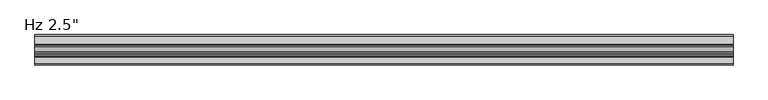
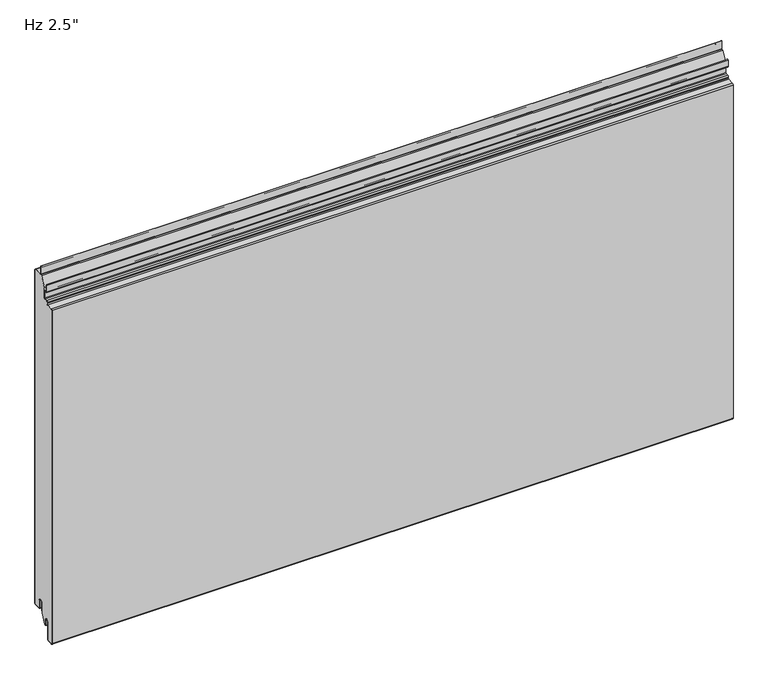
"""IFC4 building model written with IfcOpenShell, lengths in millimetres: plate geometry."""

from ifc_helpers import new_model, si_unit, point, frame, frame_2d, origin, place, context, project, spatial, polyline, circle_curve, ellipse_curve, trimmed, segment, composite_curve, outline, extrude, source, transform, mapped, element, save
from ifc_brep_helpers import plane_surface, cylinder_surface, revolved_surface, extruded_surface, advanced_brep


def plate_dc62b988(model_context):
    return source(origin(), model_context, "Body", "SolidModel", [
        extrude(outline(composite_curve([segment(trimmed(circle_curve(frame_2d((-21.43125, 19.05)), 4.96875), [point((-16.4625, 19.05))], [point((-26.4, 19.05))], True, "CARTESIAN"), True, "CONTINUOUS"), segment(polyline([(-26.4, 19.05), (-26.4, -3.1323422), (-36.5326309, -23.01875), (-38.1, -23.01875), (-38.1, -13.5080174), (-38.89375, -13.5080174), (-38.6875, -11.9205174)]), True, "CONTINUOUS"), segment(trimmed(circle_curve(frame_2d((-43.65625, -11.9205174)), 4.96875), [point((-38.6875, -11.9205174))], [point((-48.625, -11.9205174))], True, "CARTESIAN"), True, "CONTINUOUS"), segment(polyline([(-48.625, -11.9205174), (-48.625, -50.1038221)]), True, "CONTINUOUS"), segment(trimmed(circle_curve(frame_2d((-50.00625, -50.1038221)), 1.38125), [point((-48.625, -50.1038221))], [point((-49.933961, -51.4831791))], False, "CARTESIAN"), True, "CONTINUOUS"), segment(polyline([(-49.933961, -51.4831791), (-61.046461, -52.0655606)]), True, "CONTINUOUS"), segment(trimmed(circle_curve(frame_2d((-61.11875, -50.6862035)), 1.38125), [point((-61.046461, -52.0655606))], [point((-62.5, -50.6862035))], False, "CARTESIAN"), True, "CONTINUOUS"), segment(polyline([(-62.5, -50.6862035), (-62.5, 704.9572607)]), True, "CONTINUOUS"), segment(trimmed(circle_curve(frame_2d((-61.11875, 704.9572607)), 1.38125), [point((-62.5, 704.9572607))], [point((-61.191039, 706.3366177))], False, "CARTESIAN"), True, "CONTINUOUS"), segment(polyline([(-61.191039, 706.3366177), (-47.4895807, 707.0546807)]), True, "CONTINUOUS"), segment(trimmed(circle_curve(frame_2d((-47.625, 709.6386347)), 2.5875), [point((-47.4895807, 707.0546807))], [point((-45.0375, 709.6386347))], True, "CARTESIAN"), True, "CONTINUOUS"), segment(polyline([(-45.0375, 709.6386347), (-45.0375, 712.6824411)]), True, "CONTINUOUS"), segment(trimmed(circle_curve(frame_2d((-43.65625, 712.6824411)), 1.38125), [point((-45.0375, 712.6824411))], [point((-43.728539, 714.0617981))], False, "CARTESIAN"), True, "CONTINUOUS"), segment(polyline([(-43.728539, 714.0617981), (-37.9645807, 714.3638744)]), True, "CONTINUOUS"), segment(trimmed(circle_curve(frame_2d((-38.1, 716.9478283)), 2.5875), [point((-37.9645807, 714.3638744))], [point((-35.5125, 716.9478283))], True, "CARTESIAN"), True, "CONTINUOUS"), segment(polyline([(-35.5125, 716.9478283), (-35.5125, 739.3892934), (-24.9057308, 760.20625), (-2.38125, 760.20625)]), True, "CONTINUOUS"), segment(trimmed(circle_curve(frame_2d((-2.38125, 758.825)), 1.38125), [point((-2.38125, 760.20625))], [point((-1.0, 758.825))], False, "CARTESIAN"), True, "CONTINUOUS"), segment(polyline([(-1.0, 758.825), (-1.0, 3.175)]), True, "CONTINUOUS"), segment(trimmed(circle_curve(frame_2d((-2.38125, 3.175)), 1.38125), [point((-1.0, 3.175))], [point((-2.38125, 1.79375))], False, "CARTESIAN"), True, "CONTINUOUS"), segment(polyline([(-2.38125, 1.79375), (-15.08125, 1.79375)]), True, "CONTINUOUS"), segment(trimmed(circle_curve(frame_2d((-15.08125, 3.175)), 1.38125), [point((-15.08125, 1.79375))], [point((-16.4625, 3.175))], False, "CARTESIAN"), True, "CONTINUOUS"), segment(polyline([(-16.4625, 3.175), (-16.4625, 19.05)]), True, "CONTINUOUS")], self_intersect=False)), frame((-730.0, 0.0, 0.0), z_axis=(1.0, 0.0, 0.0), x_axis=(0.0, 1.0, 0.0)), (0.0, 0.0, 1.0), 1460.0),
        extrude(outline(composite_curve([segment(polyline([(-25.4, 0.79375), (-26.4, 0.79375), (-26.4, 19.05)]), True, "CONTINUOUS"), segment(trimmed(circle_curve(frame_2d((-21.43125, 19.05)), 4.96875), [point((-26.4, 19.05))], [point((-16.4625, 19.05))], False, "CARTESIAN"), True, "CONTINUOUS"), segment(polyline([(-16.4625, 19.05), (-16.4625, 3.175)]), True, "CONTINUOUS"), segment(trimmed(circle_curve(frame_2d((-15.08125, 3.175)), 1.38125), [point((-16.4625, 3.175))], [point((-15.08125, 1.79375))], True, "CARTESIAN"), True, "CONTINUOUS"), segment(polyline([(-15.08125, 1.79375), (-2.38125, 1.79375)]), True, "CONTINUOUS"), segment(trimmed(circle_curve(frame_2d((-2.38125, 3.175)), 1.38125), [point((-2.38125, 1.79375))], [point((-1.0, 3.175))], True, "CARTESIAN"), True, "CONTINUOUS"), segment(polyline([(-1.0, 3.175), (-1.0, 758.825)]), True, "CONTINUOUS"), segment(trimmed(circle_curve(frame_2d((-2.38125, 758.825)), 1.38125), [point((-1.0, 758.825))], [point((-2.38125, 760.20625))], True, "CARTESIAN"), True, "CONTINUOUS"), segment(polyline([(-2.38125, 760.20625), (-19.446875, 760.20625)]), True, "CONTINUOUS"), segment(trimmed(circle_curve(frame_2d((-19.446875, 762.79375)), 2.5875), [point((-19.446875, 760.20625))], [point((-22.034375, 762.79375))], False, "CARTESIAN"), True, "CONTINUOUS"), segment(polyline([(-22.034375, 762.79375), (-22.034375, 780.25625), (-21.034375, 780.25625), (-21.034375, 762.79375)]), True, "CONTINUOUS"), segment(trimmed(circle_curve(frame_2d((-19.446875, 762.79375)), 1.5875), [point((-21.034375, 762.79375))], [point((-19.446875, 761.20625))], True, "CARTESIAN"), True, "CONTINUOUS"), segment(polyline([(-19.446875, 761.20625), (-2.38125, 761.20625)]), True, "CONTINUOUS"), segment(trimmed(circle_curve(frame_2d((-2.38125, 758.825)), 2.38125), [point((-2.38125, 761.20625))], [point((0.0, 758.825))], False, "CARTESIAN"), True, "CONTINUOUS"), segment(polyline([(0.0, 758.825), (0.0, 3.175)]), True, "CONTINUOUS"), segment(trimmed(circle_curve(frame_2d((-2.38125, 3.175)), 2.38125), [point((0.0, 3.175))], [point((-2.38125, 0.79375))], False, "CARTESIAN"), True, "CONTINUOUS"), segment(polyline([(-2.38125, 0.79375), (-15.08125, 0.79375)]), True, "CONTINUOUS"), segment(trimmed(circle_curve(frame_2d((-15.08125, 3.175)), 2.38125), [point((-15.08125, 0.79375))], [point((-17.4625, 3.175))], False, "CARTESIAN"), True, "CONTINUOUS"), segment(polyline([(-17.4625, 3.175), (-17.4625, 19.05)]), True, "CONTINUOUS"), segment(trimmed(circle_curve(frame_2d((-21.43125, 19.05)), 3.96875), [point((-17.4625, 19.05))], [point((-25.4, 19.05))], True, "CARTESIAN"), True, "CONTINUOUS"), segment(polyline([(-25.4, 19.05), (-25.4, 0.79375)]), True, "CONTINUOUS")], self_intersect=False)), frame((-730.0, 0.0, 0.0), z_axis=(1.0, 0.0, 0.0), x_axis=(0.0, 1.0, 0.0)), (0.0, 0.0, 1.0), 1460.0),
        advanced_brep(
        [(-730.0, -38.1, -23.2314549), (-730.0, -39.6875, -23.2314549), (-730.0, -39.6875, -11.9205174), (-730.0, -47.625, -11.9205174), (-730.0, -47.625, -50.1038221), (-730.0, -49.881625, -52.4818086), (-730.0, -60.994125, -53.0641901), (-730.0, -63.5, -50.6862035), (-730.0, -63.5, 704.9572607), (-730.0, -61.243375, 707.3352473), (-730.0, -47.5419167, 708.0533103), (-730.0, -46.0375, 709.6386347), (-730.0, -46.0375, 712.6824411), (-730.0, -43.780875, 715.0604276), (-730.0, -38.0169167, 715.3625039), (-730.0, -36.5125, 716.9478283), (-730.0, -36.5125, 731.8232326), (-730.0, -38.1, 733.4107326), (-730.0, -42.2671875, 733.4107326), (-730.0, -44.6484375, 735.7919826), (-730.0, -44.6484375, 750.2836032), (-730.0, -42.8546875, 750.2836032), (-730.0, -42.8546875, 740.5544826), (-730.0, -43.6484375, 740.5544826), (-730.0, -43.6484375, 735.7919826), (-730.0, -42.2671875, 734.4107326), (-730.0, -38.1, 734.4107326), (-730.0, -35.5125, 731.8232326), (-730.0, -35.5125, 716.9478283), (-730.0, -37.9645807, 714.3638744), (-730.0, -43.728539, 714.0617981), (-730.0, -45.0375, 712.6824411), (-730.0, -45.0375, 709.6386347), (-730.0, -47.4895807, 707.0546807), (-730.0, -61.191039, 706.3366177), (-730.0, -62.5, 704.9572607), (-730.0, -62.5, -50.6862035), (-730.0, -61.046461, -52.0655606), (-730.0, -49.933961, -51.4831791), (-730.0, -48.625, -50.1038221), (-730.0, -48.625, -11.9205174), (-730.0, -38.6875, -11.9205174), (-730.0, -38.89375, -13.5080174), (-730.0, -38.1, -13.5080174), (730.0, -38.1, -23.2314549), (730.0, -38.1, -13.5080174), (730.0, -38.89375, -13.5080174), (730.0, -38.6875, -11.9205174), (730.0, -48.625, -11.9205174), (730.0, -48.625, -50.1038221), (730.0, -49.933961, -51.4831791), (730.0, -61.046461, -52.0655606), (730.0, -62.5, -50.6862035), (730.0, -62.5, 704.9572607), (730.0, -61.191039, 706.3366177), (730.0, -47.4895807, 707.0546807), (730.0, -45.0375, 709.6386347), (730.0, -45.0375, 712.6824411), (730.0, -43.728539, 714.0617981), (730.0, -37.9645807, 714.3638744), (730.0, -35.5125, 716.9478283), (730.0, -35.5125, 731.8232326), (730.0, -38.1, 734.4107326), (730.0, -42.2671875, 734.4107326), (730.0, -43.6484375, 735.7919826), (730.0, -43.6484375, 740.5544826), (730.0, -42.8546875, 740.5544826), (730.0, -42.8546875, 750.2836032), (730.0, -44.6484375, 750.2836032), (730.0, -44.6484375, 735.7919826), (730.0, -42.2671875, 733.4107326), (730.0, -38.1, 733.4107326), (730.0, -36.5125, 731.8232326), (730.0, -36.5125, 716.9478283), (730.0, -38.0169167, 715.3625039), (730.0, -43.780875, 715.0604276), (730.0, -46.0375, 712.6824411), (730.0, -46.0375, 709.6386347), (730.0, -47.5419167, 708.0533103), (730.0, -61.243375, 707.3352473), (730.0, -63.5, 704.9572607), (730.0, -63.5, -50.6862035), (730.0, -60.994125, -53.0641901), (730.0, -49.881625, -52.4818086), (730.0, -47.625, -50.1038221), (730.0, -47.625, -11.9205174), (730.0, -39.6875, -11.9205174), (730.0, -39.6875, -23.2314549)],
        [
            (0, 1, circle_curve(frame((-730.0, -38.89375, -23.2314549), z_axis=(-1.0, 0.0, 0.0), x_axis=(0.0, 0.0, 1.0)), 0.79375)),
            (1, 2),
            (2, 3, circle_curve(frame((-730.0, -43.65625, -11.9205174), z_axis=(1.0, 0.0, 0.0), x_axis=(0.0, 0.0, 1.0)), 3.96875)),
            (3, 4),
            (4, 5, circle_curve(frame((-730.0, -50.00625, -50.1038221), z_axis=(-1.0, 0.0, 0.0), x_axis=(0.0, 0.0, 1.0)), 2.38125)),
            (5, 6),
            (6, 7, circle_curve(frame((-730.0, -61.11875, -50.6862035), z_axis=(-1.0, 0.0, 0.0), x_axis=(0.0, 0.0, 1.0)), 2.38125)),
            (7, 8),
            (8, 9, circle_curve(frame((-730.0, -61.11875, 704.9572607), z_axis=(-1.0, 0.0, 0.0), x_axis=(0.0, 0.0, 1.0)), 2.38125)),
            (9, 10),
            (10, 11, circle_curve(frame((-730.0, -47.625, 709.6386347), z_axis=(1.0, 0.0, 0.0), x_axis=(0.0, 0.0, 1.0)), 1.5875)),
            (11, 12),
            (12, 13, circle_curve(frame((-730.0, -43.65625, 712.6824411), z_axis=(-1.0, 0.0, 0.0), x_axis=(0.0, 0.0, 1.0)), 2.38125)),
            (13, 14),
            (14, 15, circle_curve(frame((-730.0, -38.1, 716.9478283), z_axis=(1.0, 0.0, 0.0), x_axis=(0.0, 0.0, 1.0)), 1.5875)),
            (15, 16),
            (16, 17, circle_curve(frame((-730.0, -38.1, 731.8232326), z_axis=(1.0, 0.0, 0.0), x_axis=(0.0, 0.0, 1.0)), 1.5875)),
            (17, 18),
            (18, 19, circle_curve(frame((-730.0, -42.2671875, 735.7919826), z_axis=(-1.0, 0.0, 0.0), x_axis=(0.0, 0.0, 1.0)), 2.38125)),
            (19, 20),
            (20, 21, ellipse_curve(frame((-730.0, -43.7515625, 750.2836032), z_axis=(-1.0, 0.0, 0.0), x_axis=(0.0, 1.0, 0.0)), 0.896875, 0.7852275)),
            (21, 22),
            (22, 23),
            (23, 24),
            (24, 25, circle_curve(frame((-730.0, -42.2671875, 735.7919826), z_axis=(1.0, 0.0, 0.0), x_axis=(0.0, 0.0, 1.0)), 1.38125)),
            (25, 26),
            (26, 27, circle_curve(frame((-730.0, -38.1, 731.8232326), z_axis=(-1.0, 0.0, 0.0), x_axis=(0.0, 0.0, 1.0)), 2.5875)),
            (27, 28),
            (28, 29, circle_curve(frame((-730.0, -38.1, 716.9478283), z_axis=(-1.0, 0.0, 0.0), x_axis=(0.0, 0.0, 1.0)), 2.5875)),
            (29, 30),
            (30, 31, circle_curve(frame((-730.0, -43.65625, 712.6824411), z_axis=(1.0, 0.0, 0.0), x_axis=(0.0, 0.0, 1.0)), 1.38125)),
            (31, 32),
            (32, 33, circle_curve(frame((-730.0, -47.625, 709.6386347), z_axis=(-1.0, 0.0, 0.0), x_axis=(0.0, 0.0, 1.0)), 2.5875)),
            (33, 34),
            (34, 35, circle_curve(frame((-730.0, -61.11875, 704.9572607), z_axis=(1.0, 0.0, 0.0), x_axis=(0.0, 0.0, 1.0)), 1.38125)),
            (35, 36),
            (36, 37, circle_curve(frame((-730.0, -61.11875, -50.6862035), z_axis=(1.0, 0.0, 0.0), x_axis=(0.0, 0.0, 1.0)), 1.38125)),
            (37, 38),
            (38, 39, circle_curve(frame((-730.0, -50.00625, -50.1038221), z_axis=(1.0, 0.0, 0.0), x_axis=(0.0, 0.0, 1.0)), 1.38125)),
            (39, 40),
            (40, 41, circle_curve(frame((-730.0, -43.65625, -11.9205174), z_axis=(-1.0, 0.0, 0.0), x_axis=(0.0, 0.0, 1.0)), 4.96875)),
            (41, 42),
            (42, 43),
            (43, 0),
            (44, 45),
            (45, 46),
            (46, 47),
            (47, 48, circle_curve(frame((730.0, -43.65625, -11.9205174), z_axis=(1.0, 0.0, 0.0), x_axis=(0.0, 0.0, 1.0)), 4.96875)),
            (48, 49),
            (49, 50, circle_curve(frame((730.0, -50.00625, -50.1038221), z_axis=(-1.0, 0.0, 0.0), x_axis=(0.0, 0.0, 1.0)), 1.38125)),
            (50, 51),
            (51, 52, circle_curve(frame((730.0, -61.11875, -50.6862035), z_axis=(-1.0, 0.0, 0.0), x_axis=(0.0, 0.0, 1.0)), 1.38125)),
            (52, 53),
            (53, 54, circle_curve(frame((730.0, -61.11875, 704.9572607), z_axis=(-1.0, 0.0, 0.0), x_axis=(0.0, 0.0, 1.0)), 1.38125)),
            (54, 55),
            (55, 56, circle_curve(frame((730.0, -47.625, 709.6386347), z_axis=(1.0, 0.0, 0.0), x_axis=(0.0, 0.0, 1.0)), 2.5875)),
            (56, 57),
            (57, 58, circle_curve(frame((730.0, -43.65625, 712.6824411), z_axis=(-1.0, 0.0, 0.0), x_axis=(0.0, 0.0, 1.0)), 1.38125)),
            (58, 59),
            (59, 60, circle_curve(frame((730.0, -38.1, 716.9478283), z_axis=(1.0, 0.0, 0.0), x_axis=(0.0, 0.0, 1.0)), 2.5875)),
            (60, 61),
            (61, 62, circle_curve(frame((730.0, -38.1, 731.8232326), z_axis=(1.0, 0.0, 0.0), x_axis=(0.0, 0.0, 1.0)), 2.5875)),
            (62, 63),
            (63, 64, circle_curve(frame((730.0, -42.2671875, 735.7919826), z_axis=(-1.0, 0.0, 0.0), x_axis=(0.0, 0.0, 1.0)), 1.38125)),
            (64, 65),
            (65, 66),
            (66, 67),
            (67, 68, ellipse_curve(frame((730.0, -43.7515625, 750.2836032), z_axis=(1.0, 0.0, 0.0), x_axis=(0.0, 1.0, 0.0)), 0.896875, 0.7852275)),
            (68, 69),
            (69, 70, circle_curve(frame((730.0, -42.2671875, 735.7919826), z_axis=(1.0, 0.0, 0.0), x_axis=(0.0, 0.0, 1.0)), 2.38125)),
            (70, 71),
            (71, 72, circle_curve(frame((730.0, -38.1, 731.8232326), z_axis=(-1.0, 0.0, 0.0), x_axis=(0.0, 0.0, 1.0)), 1.5875)),
            (72, 73),
            (73, 74, circle_curve(frame((730.0, -38.1, 716.9478283), z_axis=(-1.0, 0.0, 0.0), x_axis=(0.0, 0.0, 1.0)), 1.5875)),
            (74, 75),
            (75, 76, circle_curve(frame((730.0, -43.65625, 712.6824411), z_axis=(1.0, 0.0, 0.0), x_axis=(0.0, 0.0, 1.0)), 2.38125)),
            (76, 77),
            (77, 78, circle_curve(frame((730.0, -47.625, 709.6386347), z_axis=(-1.0, 0.0, 0.0), x_axis=(0.0, 0.0, 1.0)), 1.5875)),
            (78, 79),
            (79, 80, circle_curve(frame((730.0, -61.11875, 704.9572607), z_axis=(1.0, 0.0, 0.0), x_axis=(0.0, 0.0, 1.0)), 2.38125)),
            (80, 81),
            (81, 82, circle_curve(frame((730.0, -61.11875, -50.6862035), z_axis=(1.0, 0.0, 0.0), x_axis=(0.0, 0.0, 1.0)), 2.38125)),
            (82, 83),
            (83, 84, circle_curve(frame((730.0, -50.00625, -50.1038221), z_axis=(1.0, 0.0, 0.0), x_axis=(0.0, 0.0, 1.0)), 2.38125)),
            (84, 85),
            (85, 86, circle_curve(frame((730.0, -43.65625, -11.9205174), z_axis=(-1.0, 0.0, 0.0), x_axis=(0.0, 0.0, 1.0)), 3.96875)),
            (86, 87),
            (87, 44, circle_curve(frame((730.0, -38.89375, -23.2314549), z_axis=(1.0, 0.0, 0.0), x_axis=(0.0, 0.0, 1.0)), 0.79375)),
            (23, 65),
            (64, 24),
            (28, 60),
            (59, 29),
            (58, 30),
            (57, 31),
            (56, 32),
            (55, 33),
            (54, 34),
            (53, 35),
            (52, 36),
            (51, 37),
            (50, 38),
            (49, 39),
            (48, 40),
            (43, 45),
            (44, 0),
            (87, 1),
            (86, 2),
            (85, 3),
            (84, 4),
            (83, 5),
            (82, 6),
            (81, 7),
            (80, 8),
            (79, 9),
            (78, 10),
            (77, 11),
            (76, 12),
            (75, 13),
            (74, 14),
            (73, 15),
            (72, 16),
            (71, 17),
            (70, 18),
            (69, 19),
            (68, 20),
            (27, 61),
            (26, 62),
            (25, 63),
            (21, 67),
            (66, 22),
            (41, 47),
            (46, 42),
        ],
        [
            plane_surface(frame((-730.0, -63.5, 381.0), z_axis=(-1.0, 0.0, 0.0), x_axis=(0.0, -1.0, 0.0))),
            plane_surface(frame((730.0, -63.5, 381.0), z_axis=(1.0, 0.0, 0.0), x_axis=(0.0, -1.0, 0.0))),
            plane_surface(frame((-730.0, -43.6484375, 735.7919826), z_axis=(0.0, 1.0, 0.0), x_axis=(1.0, 0.0, 0.0))),
            cylinder_surface(frame((-730.0, -38.1, 716.9478283), z_axis=(-1.0, 0.0, 0.0), x_axis=(0.0, 0.0, 1.0)), 2.5875),
            plane_surface(frame((-730.0, -43.728539, 714.0617981), z_axis=(0.0, 0.0523359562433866, -0.9986295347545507), x_axis=(1.0, 0.0, 0.0))),
            revolved_surface(polyline([(730.0, -43.65625, 714.0636911), (-730.0, -43.65625, 714.0636911)]), (-730.0, -43.65625, 712.6824411), (1.0, 0.0, 0.0)),
            plane_surface(frame((-730.0, -45.0375, 709.6386347), z_axis=(0.0, 1.0, 0.0), x_axis=(1.0, 0.0, 0.0))),
            cylinder_surface(frame((-730.0, -47.625, 709.6386347), z_axis=(-1.0, 0.0, 0.0), x_axis=(0.0, 0.0, 1.0)), 2.5875),
            plane_surface(frame((-730.0, -61.191039, 706.3366177), z_axis=(0.0, 0.05233595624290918, -0.9986295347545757), x_axis=(1.0, 0.0, 0.0))),
            revolved_surface(polyline([(730.0, -61.11875, 706.3385107), (-730.0, -61.11875, 706.3385107)]), (-730.0, -61.11875, 704.9572607), (1.0, 0.0, 0.0)),
            plane_surface(frame((-730.0, -62.5, -50.6862035), z_axis=(0.0, 1.0, 0.0), x_axis=(1.0, 0.0, 0.0))),
            revolved_surface(polyline([(730.0, -61.11875, -49.304953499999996), (-730.0, -61.11875, -49.304953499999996)]), (-730.0, -61.11875, -50.6862035), (1.0, 0.0, 0.0)),
            plane_surface(frame((-730.0, -49.933961, -51.4831791), z_axis=(0.0, -0.05233595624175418, 0.9986295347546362), x_axis=(1.0, 0.0, 0.0))),
            revolved_surface(polyline([(730.0, -50.00625, -48.7225721), (-730.0, -50.00625, -48.7225721)]), (-730.0, -50.00625, -50.1038221), (1.0, 0.0, 0.0)),
            plane_surface(frame((-730.0, -48.625, -11.9205174), z_axis=(0.0, -1.0, 0.0), x_axis=(1.0, 0.0, 0.0))),
            plane_surface(frame((-730.0, -38.1, -23.2314549), z_axis=(0.0, 1.0, 0.0), x_axis=(1.0, 0.0, 0.0))),
            cylinder_surface(frame((-730.0, -38.89375, -23.2314549), z_axis=(-1.0, 0.0, 0.0), x_axis=(0.0, 0.0, 1.0)), 0.79375),
            plane_surface(frame((-730.0, -39.6875, -11.9205174), z_axis=(0.0, -1.0, 0.0), x_axis=(1.0, 0.0, 0.0))),
            revolved_surface(polyline([(730.0, -43.65625, -7.9517674), (-730.0, -43.65625, -7.9517674)]), (-730.0, -43.65625, -11.9205174), (1.0, 0.0, 0.0)),
            plane_surface(frame((-730.0, -47.625, -50.1038221), z_axis=(0.0, 1.0, 0.0), x_axis=(1.0, 0.0, 0.0))),
            cylinder_surface(frame((-730.0, -50.00625, -50.1038221), z_axis=(-1.0, 0.0, 0.0), x_axis=(0.0, 0.0, 1.0)), 2.38125),
            plane_surface(frame((-730.0, -60.994125, -53.0641901), z_axis=(0.0, 0.05233595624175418, -0.9986295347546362), x_axis=(1.0, 0.0, 0.0))),
            cylinder_surface(frame((-730.0, -61.11875, -50.6862035), z_axis=(-1.0, 0.0, 0.0), x_axis=(0.0, 0.0, 1.0)), 2.38125),
            plane_surface(frame((-730.0, -63.5, 704.9572607), z_axis=(0.0, -1.0, 0.0), x_axis=(1.0, 0.0, 0.0))),
            cylinder_surface(frame((-730.0, -61.11875, 704.9572607), z_axis=(-1.0, 0.0, 0.0), x_axis=(0.0, 0.0, 1.0)), 2.38125),
            plane_surface(frame((-730.0, -47.5419167, 708.0533103), z_axis=(0.0, -0.052335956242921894, 0.998629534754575), x_axis=(1.0, 0.0, 0.0))),
            revolved_surface(polyline([(730.0, -47.625, 711.2261347), (-730.0, -47.625, 711.2261347)]), (-730.0, -47.625, 709.6386347), (1.0, 0.0, 0.0)),
            plane_surface(frame((-730.0, -46.0375, 712.6824411), z_axis=(0.0, -1.0, 0.0), x_axis=(1.0, 0.0, 0.0))),
            cylinder_surface(frame((-730.0, -43.65625, 712.6824411), z_axis=(-1.0, 0.0, 0.0), x_axis=(0.0, 0.0, 1.0)), 2.38125),
            plane_surface(frame((-730.0, -38.0169167, 715.3625039), z_axis=(0.0, -0.05233595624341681, 0.9986295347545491), x_axis=(1.0, 0.0, 0.0))),
            revolved_surface(polyline([(730.0, -38.1, 718.5353283), (-730.0, -38.1, 718.5353283)]), (-730.0, -38.1, 716.9478283), (1.0, 0.0, 0.0)),
            plane_surface(frame((-730.0, -36.5125, 731.8232326), z_axis=(0.0, -1.0, 0.0), x_axis=(1.0, 0.0, 0.0))),
            revolved_surface(polyline([(730.0, -38.1, 733.4107326), (-730.0, -38.1, 733.4107326)]), (-730.0, -38.1, 731.8232326), (1.0, 0.0, 0.0)),
            plane_surface(frame((-730.0, -42.2671875, 733.4107326), z_axis=(0.0, 0.0, -1.0), x_axis=(1.0, 0.0, 0.0))),
            cylinder_surface(frame((-730.0, -42.2671875, 735.7919826), z_axis=(-1.0, 0.0, 0.0), x_axis=(0.0, 0.0, 1.0)), 2.38125),
            plane_surface(frame((-730.0, -44.6484375, 750.2836032), z_axis=(0.0, -1.0, 0.0), x_axis=(1.0, 0.0, 0.0))),
            plane_surface(frame((-730.0, -35.5125, 716.9478283), z_axis=(0.0, 1.0, 0.0), x_axis=(1.0, 0.0, 0.0))),
            cylinder_surface(frame((-730.0, -38.1, 731.8232326), z_axis=(-1.0, 0.0, 0.0), x_axis=(0.0, 0.0, 1.0)), 2.5875),
            plane_surface(frame((-730.0, -38.1, 734.4107326), z_axis=(0.0, 0.0, 1.0), x_axis=(1.0, 0.0, 0.0))),
            revolved_surface(polyline([(730.0, -42.2671875, 737.1732326), (-730.0, -42.2671875, 737.1732326)]), (-730.0, -42.2671875, 735.7919826), (1.0, 0.0, 0.0)),
            plane_surface(frame((-730.0, -42.8546875, 740.5544826), z_axis=(0.0, 1.0, 0.0), x_axis=(1.0, 0.0, 0.0))),
            extruded_surface(trimmed(ellipse_curve(frame((-730.0, -43.7515625, 750.2836032), z_axis=(1.0, 0.0, 0.0), x_axis=(0.0, 1.0, 0.0)), 0.896875, 0.7852275), [point((-730.0, -42.8546875, 750.2836032))], [point((-730.0, -44.6484375, 750.2836032))], True, "CARTESIAN"), (1460.0, 0.0, 0.0), 1460.0),
            plane_surface(frame((-730.0, -38.89375, -13.5080174), z_axis=(0.0, 0.9916655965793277, -0.12883844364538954), x_axis=(1.0, 0.0, 0.0))),
            cylinder_surface(frame((-730.0, -43.65625, -11.9205174), z_axis=(-1.0, 0.0, 0.0), x_axis=(0.0, 0.0, 1.0)), 4.96875),
            plane_surface(frame((-730.0, -38.1, -13.5080174), z_axis=(0.0, 0.0, 1.0), x_axis=(1.0, 0.0, 0.0))),
            plane_surface(frame((-730.0, -43.6484375, 740.5544826), z_axis=(0.0, 0.0, -1.0), x_axis=(1.0, 0.0, 0.0))),
        ],
        [
            (0, [[1, 2, 3, 4, 5, 6, 7, 8, 9, 10, 11, 12, 13, 14, 15, 16, 17, 18, 19, 20, 21, 22, 23, 24, 25, 26, 27, 28, 29, 30, 31, 32, 33, 34, 35, 36, 37, 38, 39, 40, 41, 42, 43, 44]]),
            (1, [[45, 46, 47, 48, 49, 50, 51, 52, 53, 54, 55, 56, 57, 58, 59, 60, 61, 62, 63, 64, 65, 66, 67, 68, 69, 70, 71, 72, 73, 74, 75, 76, 77, 78, 79, 80, 81, 82, 83, 84, 85, 86, 87, 88]]),
            (2, [[89, -65, 90, -24]]),
            (3, [[91, -60, 92, -29]]),
            (4, [[-92, -59, 93, -30]]),
            (5, [[-93, -58, 94, -31]]),
            (6, [[-94, -57, 95, -32]]),
            (7, [[-95, -56, 96, -33]]),
            (8, [[-96, -55, 97, -34]]),
            (9, [[-97, -54, 98, -35]]),
            (10, [[-98, -53, 99, -36]]),
            (11, [[-99, -52, 100, -37]]),
            (12, [[-100, -51, 101, -38]]),
            (13, [[-101, -50, 102, -39]]),
            (14, [[-102, -49, 103, -40]]),
            (15, [[104, -45, 105, -44]]),
            (16, [[-105, -88, 106, -1]]),
            (17, [[-106, -87, 107, -2]]),
            (18, [[-107, -86, 108, -3]]),
            (19, [[-108, -85, 109, -4]]),
            (20, [[-109, -84, 110, -5]]),
            (21, [[-110, -83, 111, -6]]),
            (22, [[-111, -82, 112, -7]]),
            (23, [[-112, -81, 113, -8]]),
            (24, [[-113, -80, 114, -9]]),
            (25, [[-114, -79, 115, -10]]),
            (26, [[-115, -78, 116, -11]]),
            (27, [[-116, -77, 117, -12]]),
            (28, [[-117, -76, 118, -13]]),
            (29, [[-118, -75, 119, -14]]),
            (30, [[-119, -74, 120, -15]]),
            (31, [[-120, -73, 121, -16]]),
            (32, [[-121, -72, 122, -17]]),
            (33, [[-122, -71, 123, -18]]),
            (34, [[-123, -70, 124, -19]]),
            (35, [[-124, -69, 125, -20]]),
            (36, [[126, -61, -91, -28]]),
            (37, [[127, -62, -126, -27]]),
            (38, [[128, -63, -127, -26]]),
            (39, [[-90, -64, -128, -25]]),
            (40, [[129, -67, 130, -22]]),
            (41, [[-125, -68, -129, -21]]),
            (42, [[131, -47, 132, -42]]),
            (43, [[-103, -48, -131, -41]]),
            (44, [[-132, -46, -104, -43]]),
            (45, [[-130, -66, -89, -23]]),
        ],
    ),
    ])


if __name__ == "__main__":
    model = new_model("IFC4")
    model_context = context("Model", 3, world=origin())
    ifc_project = project(units=[si_unit("LENGTHUNIT", "METRE", prefix="MILLI")], contexts=[model_context])
    site = spatial("IfcSite", under=ifc_project)
    building = spatial("IfcBuilding", under=site)
    placement = place(None, origin())
    plate_shape = plate_dc62b988(model_context)
    element("IfcPlate", 1, ObjectType="KIP-30-DWTR-R19-CP-Hz-F : Hz 2.5\"", at=placement, inside=building, context=model_context, shape_type="MappedRepresentation", body=[
        mapped(plate_shape, transform((0.0, 0.0, 0.0), x_axis=(1.0, 0.0, 0.0), y_axis=(0.0, 1.0, 0.0), z_axis=(0.0, 0.0, 1.0))),
    ])
    save(model, "model.ifc")
